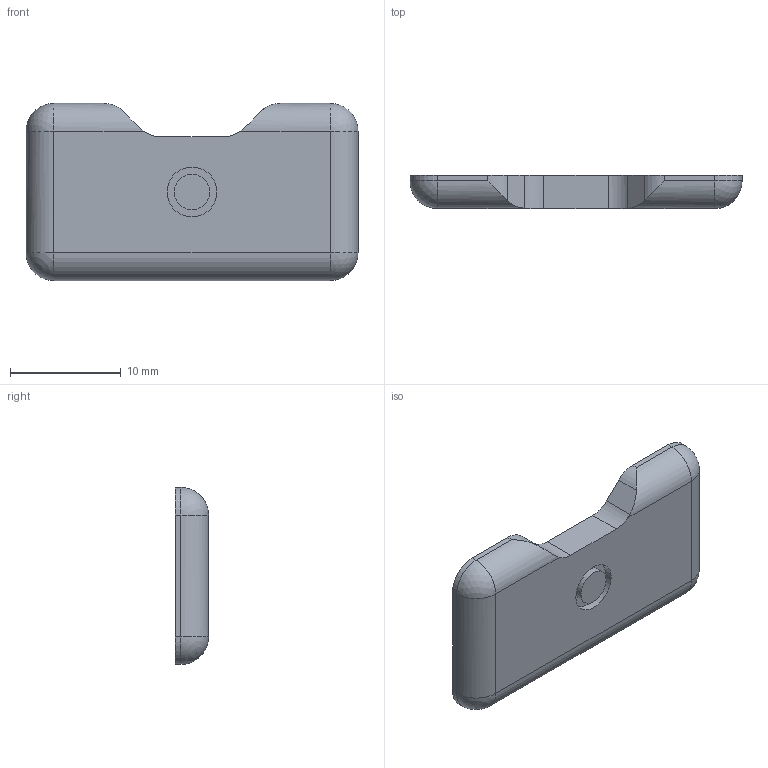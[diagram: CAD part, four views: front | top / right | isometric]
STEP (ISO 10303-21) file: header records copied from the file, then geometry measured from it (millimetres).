
FILE_DESCRIPTION((''),'2;1');
FILE_NAME('C:\Andys Backup Data\WEBSITE\DREAMWEAVER\MiniTec\Products\30 SERIES PROFILES\CAD\STEP\22.0981_1_END_CAP_16X30.stp','2014-03-13T16:09:21',('Admin'),(''),'Autodesk Inventor 2012','Autodesk Inventor 2012','');
FILE_SCHEMA(('AUTOMOTIVE_DESIGN { 1 0 10303 214 1 1 1 1 }'));
Length unit declared in the file: millimetre
Products named in the file (1): 22.0981_1_END_CAP_16X30
Bounding box: 30 x 3 x 16 mm (x, y, z)
Volume: 1219.5 mm3; surface area: 1092.9 mm2
Topology: 1 solids, 1 shells, 33 faces, 75 edges, 46 vertices
Faces by surface type: cylinder 16, plane 13, sphere 4
Full cylindrical faces by diameter (mm): 3.2 x2, 4.5 x1
Entity records: 922 total; most frequent: DIRECTION 167, CARTESIAN_POINT 153, ORIENTED_EDGE 138, EDGE_CURVE 69, AXIS2_PLACEMENT_3D 66, VERTEX_POINT 44, EDGE_LOOP 39, VECTOR 35
